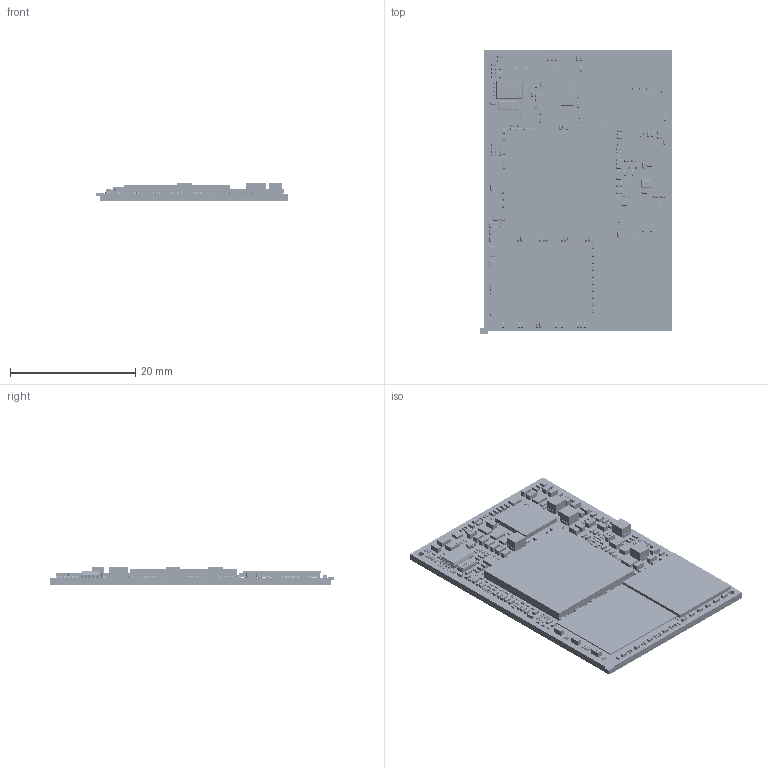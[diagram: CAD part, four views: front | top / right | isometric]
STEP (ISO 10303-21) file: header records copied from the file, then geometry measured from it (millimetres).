
FILE_DESCRIPTION(/* description */ ('PCB Design'),/* implementation_level */ '2;1');
FILE_NAME(/* name */ 'LGA3576_V1',/* time_stamp */ '2026-05-06T11:39:34+08:00',/* author */ (''),/* organization */ (''),/* preprocessor_version */ 'ST-DEVELOPER v16',/* originating_system */ 'allegro_17.2S053',/* authorisation */ '');
FILE_SCHEMA (('AUTOMOTIVE_DESIGN { 1 0 10303 214 3 1 1 }'));
Products named in the file (292): LGA3576_V1; BOARD_OUTLINE; COMPONENTS; LGA330_30X45; C0402; IND_252012; UMLP8; BGA315_12R40X15R00X1R10; BGA698_16R1X17R2X1R18; BGA153_13RX11R5X0R9_2L; SOT563; SOT_523; XTAL4_2P1X1P7MM_SM; R0402; C0603; C0805; QFN68_7R00X7R00X0R80_T; CRY2_3R20X1R50X0R90; IND_201610; IND_252010; TSSOP8_3R10X3R10X1R10; WLCSP4_0R80X0R80X0R50; R0201; C0201; 0; SC0402; User Library-INDM2520X190N; F58A3FF9-420A-4FCD-8806-EEDD01AC778F; Sphere026; Sphere111; Cube001; Sphere022; Sphere040; Sphere155; Sphere115; Sphere143; Sphere174; Sphere019; Sphere213; Sphere242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
Assembly tree (653 placements, depth 7):
  LGA3576_V1
    BOARD_OUTLINE
    COMPONENTS
      LGA330_30X45
      C0402  x57
        0
        SC0402
      IND_252012  x3
        User Library-INDM2520X190N
      UMLP8
        F58A3FF9-420A-4FCD-8806-EEDD01AC778F
      BGA315_12R40X15R00X1R10
      BGA698_16R1X17R2X1R18
        User Library-BGA237C100P16X16_1700X1700X170
          Sphere181
          Sphere255
          Sphere254
          Sphere253
          Sphere252
          Sphere251
          Sphere250
          Sphere249
          Sphere248
          Sphere247
          Sphere246
          Sphere245
          Sphere244
          Sphere243
          Sphere242
          Sphere241
          Sphere240
          Sphere239
          Sphere238
          Sphere237
          Sphere236
          Sphere235
          Sphere234
          Sphere233
          Sphere232
          Sphere231
          Sphere229
          Sphere228
          Sphere227
          Sphere226
          Sphere225
          Sphere224
          Sphere223
          Sphere222
          Sphere221
          Sphere220
          Sphere219
          Sphere218
          Sphere217
          Sphere216
          Sphere215
          Sphere214
          Sphere213
          Sphere212
          Sphere211
          Sphere210
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Bounding box: 30.62 x 45.5 x 2.9 mm (x, y, z)
Volume: 729.5 mm3; surface area: 9408.5 mm2
Topology: 1471 solids, 1708 shells, 58031 faces, 143716 edges, 91386 vertices
Faces by surface type: bspline 29151, plane 21345, cylinder 4637, sphere 2886, torus 12
Entity records: 105042 total; most frequent: CARTESIAN_POINT 29320, DIRECTION 10502, ORIENTED_EDGE 9535, EDGE_CURVE 4776, AXIS2_PLACEMENT_3D 4491, VERTEX_POINT 3359, EDGE_LOOP 2719, FACE_OUTER_BOUND 2515
